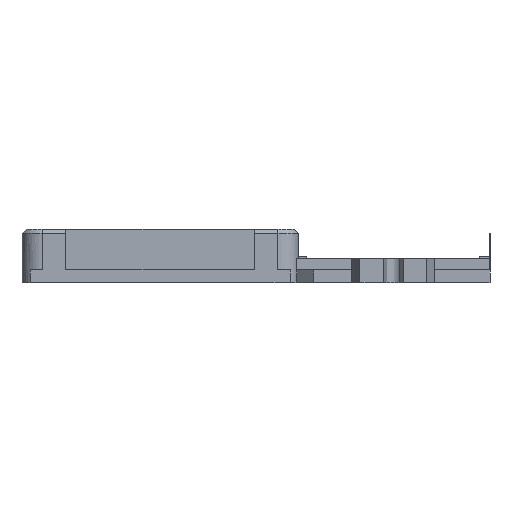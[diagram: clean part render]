
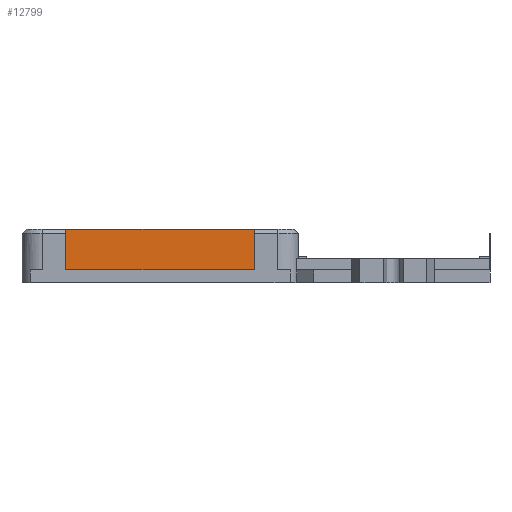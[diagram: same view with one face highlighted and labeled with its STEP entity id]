
A CAD part, left-side view. The second image highlights one B-rep face of the part: STEP entity #12799.
In plain terms, the highlighted planar face has unit normal (-1, 0, 0).
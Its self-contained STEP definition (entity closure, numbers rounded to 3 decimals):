
#2582 = PLANE('',#2583);
#2583 = AXIS2_PLACEMENT_3D('',#2584,#2585,#2586);
#2584 = CARTESIAN_POINT('',(-12.,-7.292,0.));
#2585 = DIRECTION('',(-1.,0.,0.));
#2586 = DIRECTION('',(0.,0.,1.));
#7589 = VERTEX_POINT('',#7590);
#7590 = CARTESIAN_POINT('',(-12.,31.078,34.62));
#7611 = EDGE_CURVE('',#7589,#7612,#7614,.T.);
#7612 = VERTEX_POINT('',#7613);
#7613 = CARTESIAN_POINT('',(-12.,54.338,34.62));
#7614 = SURFACE_CURVE('',#7615,(#7619,#7626),.PCURVE_S1.);
#7615 = LINE('',#7616,#7617);
#7616 = CARTESIAN_POINT('',(-12.,31.078,34.62));
#7617 = VECTOR('',#7618,1.);
#7618 = DIRECTION('',(0.,1.,0.));
#7619 = PCURVE('',#2582,#7620);
#7620 = DEFINITIONAL_REPRESENTATION('',(#7621),#7625);
#7621 = LINE('',#7622,#7623);
#7622 = CARTESIAN_POINT('',(34.62,38.37));
#7623 = VECTOR('',#7624,1.);
#7624 = DIRECTION('',(0.,1.));
#7625 = ( GEOMETRIC_REPRESENTATION_CONTEXT(2) 
PARAMETRIC_REPRESENTATION_CONTEXT() REPRESENTATION_CONTEXT('2D SPACE',''
  ) );
#7626 = PCURVE('',#7627,#7632);
#7627 = PLANE('',#7628);
#7628 = AXIS2_PLACEMENT_3D('',#7629,#7630,#7631);
#7629 = CARTESIAN_POINT('',(-12.,31.078,34.62));
#7630 = DIRECTION('',(-1.,0.,0.));
#7631 = DIRECTION('',(0.,0.,1.));
#7632 = DEFINITIONAL_REPRESENTATION('',(#7633),#7637);
#7633 = LINE('',#7634,#7635);
#7634 = CARTESIAN_POINT('',(0.,0.));
#7635 = VECTOR('',#7636,1.);
#7636 = DIRECTION('',(0.,1.));
#7637 = ( GEOMETRIC_REPRESENTATION_CONTEXT(2) 
PARAMETRIC_REPRESENTATION_CONTEXT() REPRESENTATION_CONTEXT('2D SPACE',''
  ) );
#11972 = PLANE('',#11973);
#11973 = AXIS2_PLACEMENT_3D('',#11974,#11975,#11976);
#11974 = CARTESIAN_POINT('',(-10.,31.078,34.62));
#11975 = DIRECTION('',(0.,1.,0.));
#11976 = DIRECTION('',(0.,0.,1.));
#12026 = PLANE('',#12027);
#12027 = AXIS2_PLACEMENT_3D('',#12028,#12029,#12030);
#12028 = CARTESIAN_POINT('',(-10.,54.338,34.62));
#12029 = DIRECTION('',(0.,1.,0.));
#12030 = DIRECTION('',(0.,0.,1.));
#12799 = ADVANCED_FACE('',(#12800),#7627,.T.);
#12800 = FACE_BOUND('',#12801,.T.);
#12801 = EDGE_LOOP('',(#12802,#12803,#12826,#12854));
#12802 = ORIENTED_EDGE('',*,*,#7611,.F.);
#12803 = ORIENTED_EDGE('',*,*,#12804,.T.);
#12804 = EDGE_CURVE('',#7589,#12805,#12807,.T.);
#12805 = VERTEX_POINT('',#12806);
#12806 = CARTESIAN_POINT('',(-12.,31.078,39.62));
#12807 = SURFACE_CURVE('',#12808,(#12812,#12819),.PCURVE_S1.);
#12808 = LINE('',#12809,#12810);
#12809 = CARTESIAN_POINT('',(-12.,31.078,34.62));
#12810 = VECTOR('',#12811,1.);
#12811 = DIRECTION('',(0.,0.,1.));
#12812 = PCURVE('',#7627,#12813);
#12813 = DEFINITIONAL_REPRESENTATION('',(#12814),#12818);
#12814 = LINE('',#12815,#12816);
#12815 = CARTESIAN_POINT('',(0.,0.));
#12816 = VECTOR('',#12817,1.);
#12817 = DIRECTION('',(1.,0.));
#12818 = ( GEOMETRIC_REPRESENTATION_CONTEXT(2) 
PARAMETRIC_REPRESENTATION_CONTEXT() REPRESENTATION_CONTEXT('2D SPACE',''
  ) );
#12819 = PCURVE('',#11972,#12820);
#12820 = DEFINITIONAL_REPRESENTATION('',(#12821),#12825);
#12821 = LINE('',#12822,#12823);
#12822 = CARTESIAN_POINT('',(0.,-2.));
#12823 = VECTOR('',#12824,1.);
#12824 = DIRECTION('',(1.,0.));
#12825 = ( GEOMETRIC_REPRESENTATION_CONTEXT(2) 
PARAMETRIC_REPRESENTATION_CONTEXT() REPRESENTATION_CONTEXT('2D SPACE',''
  ) );
#12826 = ORIENTED_EDGE('',*,*,#12827,.T.);
#12827 = EDGE_CURVE('',#12805,#12828,#12830,.T.);
#12828 = VERTEX_POINT('',#12829);
#12829 = CARTESIAN_POINT('',(-12.,54.338,39.62));
#12830 = SURFACE_CURVE('',#12831,(#12835,#12842),.PCURVE_S1.);
#12831 = LINE('',#12832,#12833);
#12832 = CARTESIAN_POINT('',(-12.,31.078,39.62));
#12833 = VECTOR('',#12834,1.);
#12834 = DIRECTION('',(0.,1.,0.));
#12835 = PCURVE('',#7627,#12836);
#12836 = DEFINITIONAL_REPRESENTATION('',(#12837),#12841);
#12837 = LINE('',#12838,#12839);
#12838 = CARTESIAN_POINT('',(5.,0.));
#12839 = VECTOR('',#12840,1.);
#12840 = DIRECTION('',(0.,1.));
#12841 = ( GEOMETRIC_REPRESENTATION_CONTEXT(2) 
PARAMETRIC_REPRESENTATION_CONTEXT() REPRESENTATION_CONTEXT('2D SPACE',''
  ) );
#12842 = PCURVE('',#12843,#12848);
#12843 = PLANE('',#12844);
#12844 = AXIS2_PLACEMENT_3D('',#12845,#12846,#12847);
#12845 = CARTESIAN_POINT('',(-10.,31.078,39.62));
#12846 = DIRECTION('',(0.,0.,1.));
#12847 = DIRECTION('',(0.,1.,0.));
#12848 = DEFINITIONAL_REPRESENTATION('',(#12849),#12853);
#12849 = LINE('',#12850,#12851);
#12850 = CARTESIAN_POINT('',(0.,2.));
#12851 = VECTOR('',#12852,1.);
#12852 = DIRECTION('',(1.,0.));
#12853 = ( GEOMETRIC_REPRESENTATION_CONTEXT(2) 
PARAMETRIC_REPRESENTATION_CONTEXT() REPRESENTATION_CONTEXT('2D SPACE',''
  ) );
#12854 = ORIENTED_EDGE('',*,*,#12855,.F.);
#12855 = EDGE_CURVE('',#7612,#12828,#12856,.T.);
#12856 = SURFACE_CURVE('',#12857,(#12861,#12868),.PCURVE_S1.);
#12857 = LINE('',#12858,#12859);
#12858 = CARTESIAN_POINT('',(-12.,54.338,34.62));
#12859 = VECTOR('',#12860,1.);
#12860 = DIRECTION('',(0.,0.,1.));
#12861 = PCURVE('',#7627,#12862);
#12862 = DEFINITIONAL_REPRESENTATION('',(#12863),#12867);
#12863 = LINE('',#12864,#12865);
#12864 = CARTESIAN_POINT('',(0.,23.26));
#12865 = VECTOR('',#12866,1.);
#12866 = DIRECTION('',(1.,0.));
#12867 = ( GEOMETRIC_REPRESENTATION_CONTEXT(2) 
PARAMETRIC_REPRESENTATION_CONTEXT() REPRESENTATION_CONTEXT('2D SPACE',''
  ) );
#12868 = PCURVE('',#12026,#12869);
#12869 = DEFINITIONAL_REPRESENTATION('',(#12870),#12874);
#12870 = LINE('',#12871,#12872);
#12871 = CARTESIAN_POINT('',(0.,-2.));
#12872 = VECTOR('',#12873,1.);
#12873 = DIRECTION('',(1.,0.));
#12874 = ( GEOMETRIC_REPRESENTATION_CONTEXT(2) 
PARAMETRIC_REPRESENTATION_CONTEXT() REPRESENTATION_CONTEXT('2D SPACE',''
  ) );
